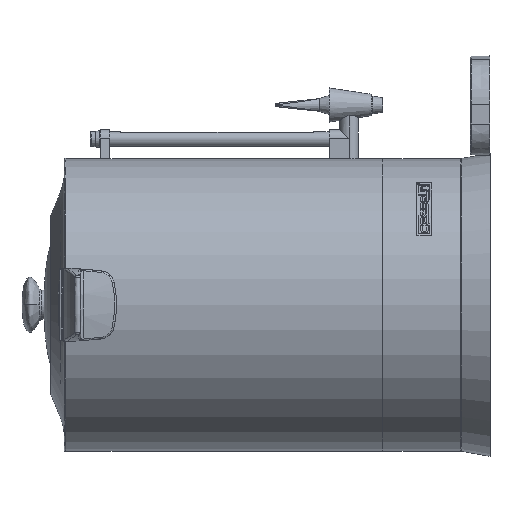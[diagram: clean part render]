
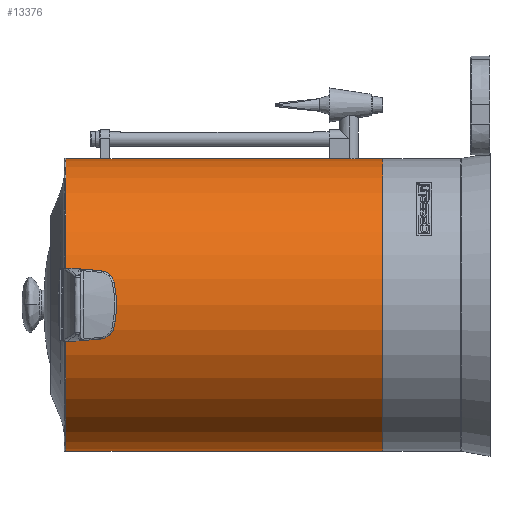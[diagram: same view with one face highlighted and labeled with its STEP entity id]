
A CAD part, left-side view. The second image highlights one B-rep face of the part: STEP entity #13376.
In plain terms, the highlighted cylindrical face has radius 150 mm (diameter 300 mm), a partial arc.
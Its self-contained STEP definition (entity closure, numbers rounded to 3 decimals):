
#54 = CARTESIAN_POINT ( 'NONE',  ( 0., 0., 0. ) ) ;
#307 = LINE ( 'NONE', #1040, #11707 ) ;
#475 = ORIENTED_EDGE ( 'NONE', *, *, #12885, .T. ) ;
#1040 = CARTESIAN_POINT ( 'NONE',  ( 0., 42.439, 150. ) ) ;
#5085 = DIRECTION ( 'NONE',  ( 0., 0., 1. ) ) ;
#6598 = DIRECTION ( 'NONE',  ( 0., 0., 1. ) ) ;
#11707 = VECTOR ( 'NONE', #66735, 1000. ) ;
#12357 = VECTOR ( 'NONE', #34430, 1000. ) ;
#12885 = EDGE_CURVE ( 'NONE', #13472, #34144, #307, .T. ) ;
#13376 = ADVANCED_FACE ( 'NONE', ( #64968 ), #48544, .T. ) ;
#13472 = VERTEX_POINT ( 'NONE', #70405 ) ;
#17364 = CARTESIAN_POINT ( 'NONE',  ( 0., 0., -150. ) ) ;
#17578 = AXIS2_PLACEMENT_3D ( 'NONE', #55472, #43798, #5085 ) ;
#17648 = ORIENTED_EDGE ( 'NONE', *, *, #25522, .F. ) ;
#21317 = EDGE_CURVE ( 'NONE', #68218, #13472, #52200, .T. ) ;
#23045 = DIRECTION ( 'NONE',  ( 0., 1., 0. ) ) ;
#24056 = DIRECTION ( 'NONE',  ( 0., 1., 0. ) ) ;
#24410 = DIRECTION ( 'NONE',  ( 0., 0., 1. ) ) ;
#25522 = EDGE_CURVE ( 'NONE', #52011, #34144, #34654, .T. ) ;
#33362 = CARTESIAN_POINT ( 'NONE',  ( 0., 42.439, -150. ) ) ;
#34144 = VERTEX_POINT ( 'NONE', #49772 ) ;
#34430 = DIRECTION ( 'NONE',  ( 0., 1., 0. ) ) ;
#34650 = CARTESIAN_POINT ( 'NONE',  ( 0., 325., 0. ) ) ;
#34654 = CIRCLE ( 'NONE', #40488, 150. ) ;
#40488 = AXIS2_PLACEMENT_3D ( 'NONE', #34650, #24056, #24410 ) ;
#42571 = EDGE_LOOP ( 'NONE', ( #63118, #64786, #475, #17648 ) ) ;
#43798 = DIRECTION ( 'NONE',  ( 0., 1., 0. ) ) ;
#44991 = LINE ( 'NONE', #33362, #12357 ) ;
#48544 = CYLINDRICAL_SURFACE ( 'NONE', #17578, 150. ) ;
#49772 = CARTESIAN_POINT ( 'NONE',  ( 0., 325., 150. ) ) ;
#49840 = CARTESIAN_POINT ( 'NONE',  ( 0., 325., -150. ) ) ;
#52011 = VERTEX_POINT ( 'NONE', #49840 ) ;
#52200 = CIRCLE ( 'NONE', #63869, 150. ) ;
#53106 = EDGE_CURVE ( 'NONE', #68218, #52011, #44991, .T. ) ;
#55472 = CARTESIAN_POINT ( 'NONE',  ( 0., 42.439, 0. ) ) ;
#63118 = ORIENTED_EDGE ( 'NONE', *, *, #53106, .F. ) ;
#63869 = AXIS2_PLACEMENT_3D ( 'NONE', #54, #23045, #6598 ) ;
#64786 = ORIENTED_EDGE ( 'NONE', *, *, #21317, .T. ) ;
#64968 = FACE_OUTER_BOUND ( 'NONE', #42571, .T. ) ;
#66735 = DIRECTION ( 'NONE',  ( 0., 1., 0. ) ) ;
#68218 = VERTEX_POINT ( 'NONE', #17364 ) ;
#70405 = CARTESIAN_POINT ( 'NONE',  ( 0., 0., 150. ) ) ;
